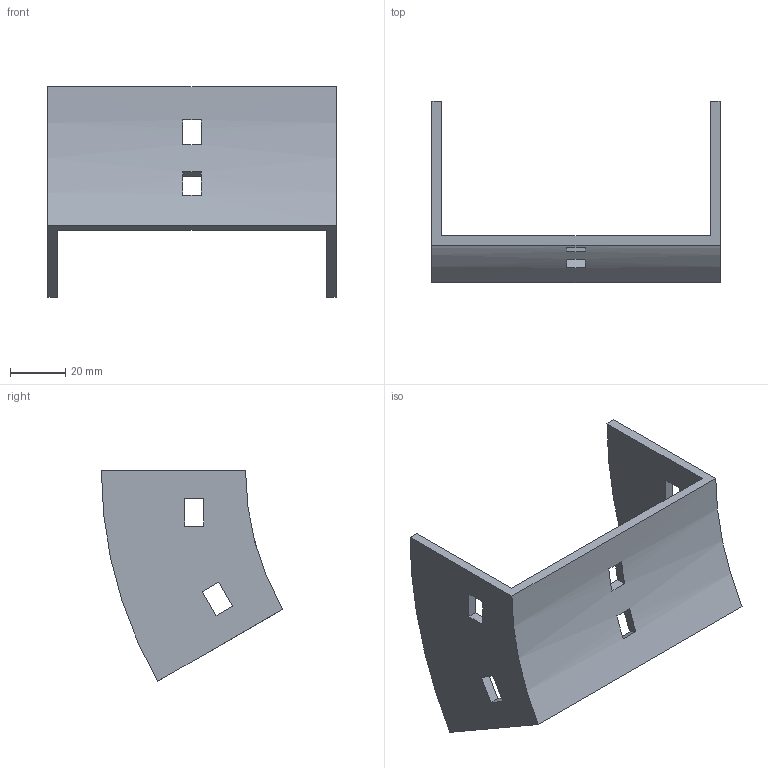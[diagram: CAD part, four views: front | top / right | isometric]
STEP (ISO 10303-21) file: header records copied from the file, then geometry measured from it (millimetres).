
FILE_DESCRIPTION (( 'STEP AP214' ), '1' );
FILE_NAME ('35B1B100.step', '2025-02-21T09:25:18', ( '' ), ( '' ), 'SwSTEP 2.0', 'SolidWorks 2023', '' );
FILE_SCHEMA (( 'AUTOMOTIVE_DESIGN' ));
Length unit declared in the file: millimetre
Products named in the file (1): 35B1B100
Bounding box: 104 x 65.4 x 76 mm (x, y, z)
Volume: 40706.5 mm3; surface area: 25914.6 mm2
Topology: 1 solids, 1 shells, 34 faces, 96 edges, 64 vertices
Faces by surface type: plane 30, cylinder 4
Entity records: 1143 total; most frequent: CARTESIAN_POINT 195, ORIENTED_EDGE 192, DIRECTION 182, EDGE_CURVE 96, LINE 80, VECTOR 80, VERTEX_POINT 64, AXIS2_PLACEMENT_3D 51
